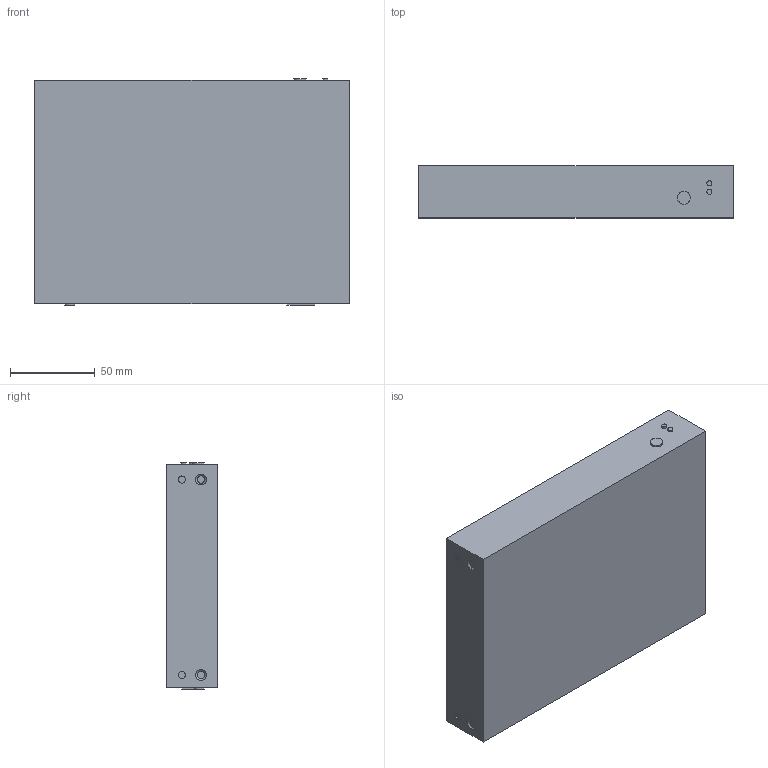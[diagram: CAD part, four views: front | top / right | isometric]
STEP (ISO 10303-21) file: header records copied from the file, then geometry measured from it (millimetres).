
FILE_DESCRIPTION (( 'STEP AP214' ), '1' );
FILE_NAME ('FG-901651-3D (FREESTANDING).STEP', '2026-05-19T19:57:27', ( '' ), ( '' ), 'SwSTEP 2.0', 'SolidWorks 2023', '' );
FILE_SCHEMA (( 'AUTOMOTIVE_DESIGN' ));
Length unit declared in the file: millimetre
Products named in the file (2): FG-3D_DECODER; FG-901651-3D (FREESTANDING)
Assembly tree (1 placements, depth 2):
  FG-901651-3D (FREESTANDING)
    FG-3D_DECODER
Bounding box: 185 x 30.5 x 133.5 mm (x, y, z)
Volume: 739863.5 mm3; surface area: 71993.9 mm2
Topology: 1 solids, 1 shells, 1843 faces, 3750 edges, 2500 vertices
Faces by surface type: cylinder 1155, plane 672, cone 16
Entity records: 49581 total; most frequent: DIRECTION 9786, CARTESIAN_POINT 8097, ORIENTED_EDGE 7500, AXIS2_PLACEMENT_3D 4189, EDGE_CURVE 3750, VERTEX_POINT 2500, EDGE_LOOP 2434, CIRCLE 2342
